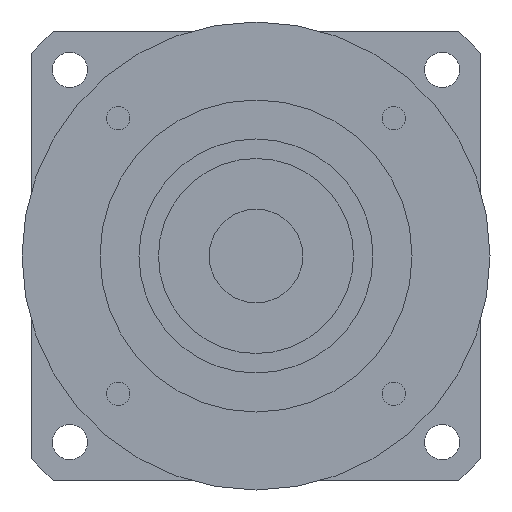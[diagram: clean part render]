
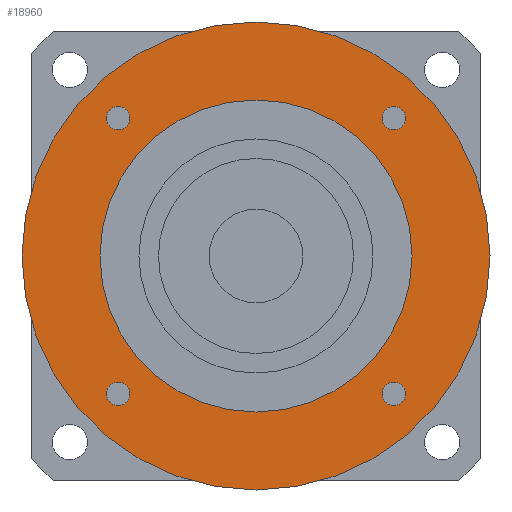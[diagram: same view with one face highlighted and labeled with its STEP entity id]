
A CAD part, left-side view. The second image highlights one B-rep face of the part: STEP entity #18960.
In plain terms, the highlighted planar face has unit normal (-1, 0, 0) as drawn and (0, 0, -1) by its records, which use the part's own axes.
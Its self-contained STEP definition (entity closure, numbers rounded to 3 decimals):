
#15820=CARTESIAN_POINT('',(-35.355,32.355,-125.));
#15830=VERTEX_POINT('',#15820);
#16010=CARTESIAN_POINT('',(-35.355,38.355,-125.));
#16020=VERTEX_POINT('',#16010);
#16050=CARTESIAN_POINT('',(-35.355,35.355,-125.));
#16060=DIRECTION('',(0.,0.,1.));
#16070=DIRECTION('',(0.,-1.,0.));
#16080=AXIS2_PLACEMENT_3D('',#16050,#16060,#16070);
#16090=CIRCLE('',#16080,3.);
#16100=EDGE_CURVE('',#16020,#15830,#16090,.T.);
#16240=CARTESIAN_POINT('',(-32.355,-35.355,-125.));
#16250=VERTEX_POINT('',#16240);
#16430=CARTESIAN_POINT('',(-38.355,-35.355,-125.));
#16440=VERTEX_POINT('',#16430);
#16470=CARTESIAN_POINT('',(-35.355,-35.355,-125.));
#16480=DIRECTION('',(0.,0.,1.));
#16490=DIRECTION('',(1.,0.,0.));
#16500=AXIS2_PLACEMENT_3D('',#16470,#16480,#16490);
#16510=CIRCLE('',#16500,3.);
#16520=EDGE_CURVE('',#16440,#16250,#16510,.T.);
#17990=CARTESIAN_POINT('',(60.,0.,-125.));
#18000=VERTEX_POINT('',#17990);
#18030=CARTESIAN_POINT('',(0.,0.,
-125.));
#18040=DIRECTION('',(0.,0.,1.));
#18050=DIRECTION('',(0.,-1.,0.));
#18060=AXIS2_PLACEMENT_3D('',#18030,#18040,#18050);
#18070=CIRCLE('',#18060,60.);
#18080=CARTESIAN_POINT('',(0.,-60.,-125.));
#18090=VERTEX_POINT('',#18080);
#18100=EDGE_CURVE('',#18090,#18000,#18070,.T.);
#18120=CARTESIAN_POINT('',(-60.,0.,-125.));
#18130=VERTEX_POINT('',#18120);
#18140=EDGE_CURVE('',#18130,#18090,#18070,.T.);
#18260=CARTESIAN_POINT('',(0.,0.,
-125.));
#18270=DIRECTION('',(0.,0.,1.));
#18280=DIRECTION('',(-1.,0.,0.));
#18290=AXIS2_PLACEMENT_3D('',#18260,#18270,#18280);
#18300=PLANE('',#18290);
#18310=CARTESIAN_POINT('',(0.,0.,
-125.));
#18320=DIRECTION('',(0.,0.,1.));
#18330=DIRECTION('',(0.,-1.,0.));
#18340=AXIS2_PLACEMENT_3D('',#18310,#18320,#18330);
#18350=CIRCLE('',#18340,40.);
#18360=CARTESIAN_POINT('',(40.,0.,-125.));
#18370=VERTEX_POINT('',#18360);
#18380=CARTESIAN_POINT('',(-40.,0.,-125.));
#18390=VERTEX_POINT('',#18380);
#18400=EDGE_CURVE('',#18370,#18390,#18350,.T.);
#18410=ORIENTED_EDGE('',*,*,#18400,.T.);
#18420=CARTESIAN_POINT('',(0.,-40.,-125.));
#18430=VERTEX_POINT('',#18420);
#18440=EDGE_CURVE('',#18430,#18370,#18350,.T.);
#18450=ORIENTED_EDGE('',*,*,#18440,.T.);
#18460=EDGE_CURVE('',#18390,#18430,#18350,.T.);
#18470=ORIENTED_EDGE('',*,*,#18460,.T.);
#18480=EDGE_LOOP('',(#18470,#18450,#18410));
#18490=FACE_BOUND('',#18480,.T.);
#18500=CARTESIAN_POINT('',(35.355,-35.355,-125.));
#18510=DIRECTION('',(0.,0.,1.));
#18520=DIRECTION('',(0.,1.,0.));
#18530=AXIS2_PLACEMENT_3D('',#18500,#18510,#18520);
#18540=CIRCLE('',#18530,3.);
#18550=CARTESIAN_POINT('',(35.355,-32.355,-125.));
#18560=VERTEX_POINT('',#18550);
#18570=CARTESIAN_POINT('',(35.355,-38.355,-125.));
#18580=VERTEX_POINT('',#18570);
#18590=EDGE_CURVE('',#18560,#18580,#18540,.T.);
#18600=ORIENTED_EDGE('',*,*,#18590,.T.);
#18610=EDGE_CURVE('',#18580,#18560,#18540,.T.);
#18620=ORIENTED_EDGE('',*,*,#18610,.T.);
#18630=EDGE_LOOP('',(#18620,#18600));
#18640=FACE_BOUND('',#18630,.T.);
#18650=CARTESIAN_POINT('',(35.355,35.355,-125.));
#18660=DIRECTION('',(0.,0.,1.));
#18670=DIRECTION('',(-1.,0.,0.));
#18680=AXIS2_PLACEMENT_3D('',#18650,#18660,#18670);
#18690=CIRCLE('',#18680,3.);
#18700=CARTESIAN_POINT('',(32.355,35.355,-125.));
#18710=VERTEX_POINT('',#18700);
#18720=CARTESIAN_POINT('',(38.355,35.355,-125.));
#18730=VERTEX_POINT('',#18720);
#18740=EDGE_CURVE('',#18710,#18730,#18690,.T.);
#18750=ORIENTED_EDGE('',*,*,#18740,.T.);
#18760=EDGE_CURVE('',#18730,#18710,#18690,.T.);
#18770=ORIENTED_EDGE('',*,*,#18760,.T.);
#18780=EDGE_LOOP('',(#18770,#18750));
#18790=FACE_BOUND('',#18780,.T.);
#18800=EDGE_CURVE('',#15830,#16020,#16090,.T.);
#18810=ORIENTED_EDGE('',*,*,#18800,.T.);
#18820=ORIENTED_EDGE('',*,*,#16100,.T.);
#18830=EDGE_LOOP('',(#18820,#18810));
#18840=FACE_BOUND('',#18830,.T.);
#18850=EDGE_CURVE('',#16250,#16440,#16510,.T.);
#18860=ORIENTED_EDGE('',*,*,#18850,.T.);
#18870=ORIENTED_EDGE('',*,*,#16520,.T.);
#18880=EDGE_LOOP('',(#18870,#18860));
#18890=FACE_BOUND('',#18880,.T.);
#18900=ORIENTED_EDGE('',*,*,#18100,.F.);
#18910=EDGE_CURVE('',#18000,#18130,#18070,.T.);
#18920=ORIENTED_EDGE('',*,*,#18910,.F.);
#18930=ORIENTED_EDGE('',*,*,#18140,.F.);
#18940=EDGE_LOOP('',(#18930,#18920,#18900));
#18950=FACE_OUTER_BOUND('',#18940,.T.);
#18960=ADVANCED_FACE('',(#18490,#18640,#18790,#18840,#18890,#18950),
#18300,.F.);
